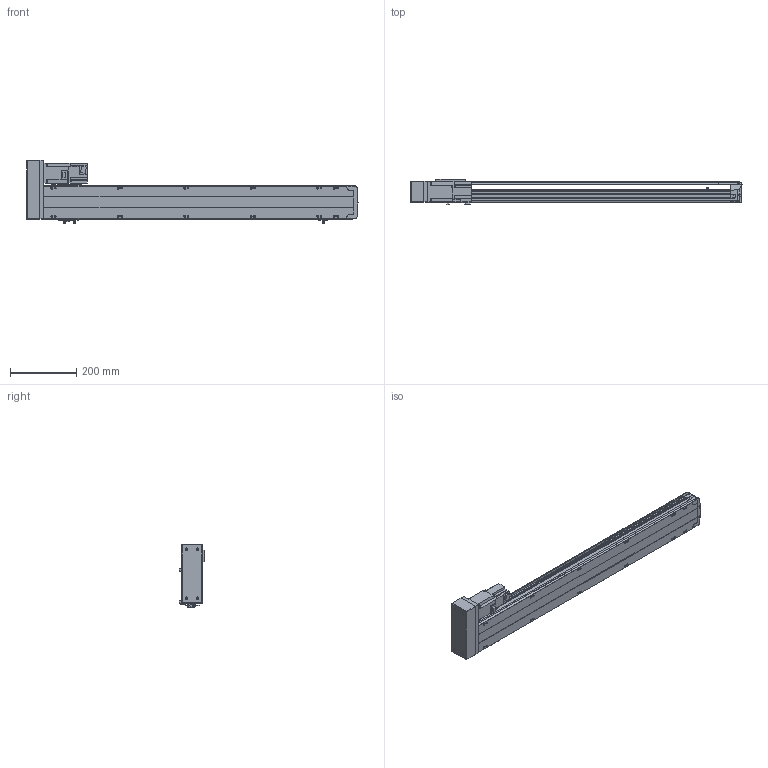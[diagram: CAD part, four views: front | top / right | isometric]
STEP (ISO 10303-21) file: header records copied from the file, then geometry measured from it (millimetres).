
FILE_DESCRIPTION( ( 'STEP AP214' ), '1' );
FILE_NAME( 'x:/temp/worker_27/temp/exporttempdir_6708_86_gXoht/format_0/PSS120-L10-S750-BL-T40-C1-N(0).stp', '2022-06-06T00:28:43', ( 'License CC BY-ND 4.0' ), ( 'CADENAS' ), ' ', 'PARTsolutions', ' ' );
FILE_SCHEMA( ( 'AUTOMOTIVE_DESIGN { 1 0 10303 214 1 1 1 1 }' ) );
Length unit declared in the file: millimetre
Products named in the file (8): PSS120-L10-S750-BL-T40-C1-N(0); _PSS120-S750-BL-C1-N_body; _PSS120-N_Q; _PSS120-BL-C1-N_sl; _PSS120-N_sensor; _PSS120BL-N_h; _T40-p1; _PSS120-S750-BL-N_S
Assembly tree (9 placements, depth 2):
  PSS120-L10-S750-BL-T40-C1-N(0)
    _PSS120-S750-BL-C1-N_body
    _PSS120-N_Q
    _PSS120-BL-C1-N_sl
    _PSS120-N_sensor  x3
    _PSS120BL-N_h
    _T40-p1
    _PSS120-S750-BL-N_S
Bounding box: 999.35 x 76.8 x 191.2 mm (x, y, z)
Volume: 3963905.1 mm3; surface area: 670632.7 mm2
Topology: 9 solids, 9 shells, 848 faces, 2269 edges, 1500 vertices
Faces by surface type: plane 595, cylinder 229, cone 20, sphere 4
Full cylindrical faces by diameter (mm): 2.8 x3, 4 x4, 4.134 x16, 4.4 x2, 4.5 x4, 4.6 x3, 5 x6, 5.5 x19, 7 x2, 7.4 x4, 8 x4, 8.5 x16, 14 x1, 28 x1, 32 x2, 50 x1
Entity records: 29077 total; most frequent: CARTESIAN_POINT 4491, DIRECTION 3803, ORIENTED_EDGE 3706, EDGE_CURVE 1853, LINE 1323, VECTOR 1323, VERTEX_POINT 1284, AXIS2_PLACEMENT_3D 1240
